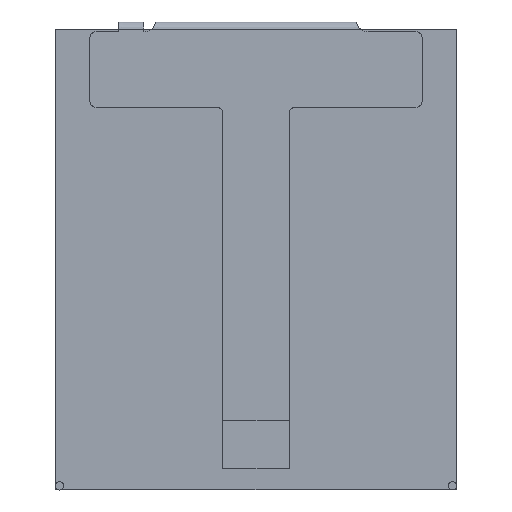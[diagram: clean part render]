
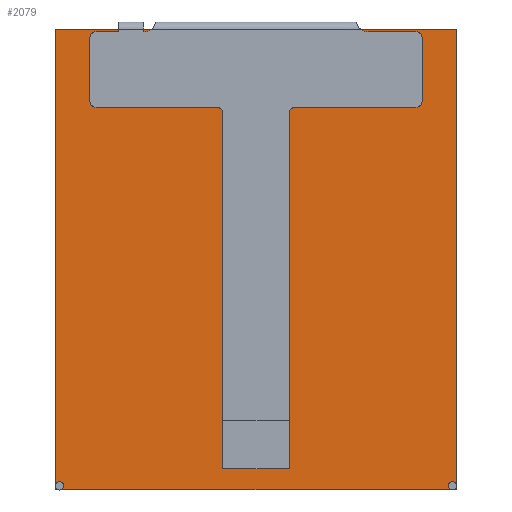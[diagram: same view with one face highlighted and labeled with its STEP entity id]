
A CAD part, front view. The second image highlights one B-rep face of the part: STEP entity #2079.
In plain terms, the highlighted planar face has unit normal (0, -1, 0).
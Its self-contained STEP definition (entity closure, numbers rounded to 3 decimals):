
#33 = CARTESIAN_POINT ( 'NONE',  ( 16.3, -0.01, -18.75 ) ) ;
#166 = CARTESIAN_POINT ( 'NONE',  ( 0., -0.01, 0. ) ) ;
#222 = CARTESIAN_POINT ( 'NONE',  ( -16.3, -0.01, -18.75 ) ) ;
#258 = DIRECTION ( 'NONE',  ( 0., 0., -1. ) ) ;
#302 = EDGE_LOOP ( 'NONE', ( #3413, #6802, #3780, #2350, #6445, #3880, #3641, #1487 ) ) ;
#447 = VECTOR ( 'NONE', #5551, 1000. ) ;
#507 = DIRECTION ( 'NONE',  ( 0., 1., 0. ) ) ;
#549 = EDGE_CURVE ( 'NONE', #3631, #5724, #4770, .T. ) ;
#570 = DIRECTION ( 'NONE',  ( 0., 0., -1. ) ) ;
#597 = VERTEX_POINT ( 'NONE', #2793 ) ;
#815 = DIRECTION ( 'NONE',  ( 1., 0., 0. ) ) ;
#1487 = ORIENTED_EDGE ( 'NONE', *, *, #3222, .T. ) ;
#1657 = VERTEX_POINT ( 'NONE', #2365 ) ;
#1810 = DIRECTION ( 'NONE',  ( 0., -1., 0. ) ) ;
#2053 = CARTESIAN_POINT ( 'NONE',  ( 16.3, -0.01, -18.4 ) ) ;
#2079 = ADVANCED_FACE ( 'NONE', ( #6687 ), #4021, .T. ) ;
#2134 = LINE ( 'NONE', #4086, #3845 ) ;
#2143 = CIRCLE ( 'NONE', #6663, 0.35 ) ;
#2255 = CARTESIAN_POINT ( 'NONE',  ( -16.65, -0.01, 19.1 ) ) ;
#2350 = ORIENTED_EDGE ( 'NONE', *, *, #5614, .T. ) ;
#2365 = CARTESIAN_POINT ( 'NONE',  ( 16.65, -0.01, -18.75 ) ) ;
#2376 = DIRECTION ( 'NONE',  ( 0., 1., 0. ) ) ;
#2560 = EDGE_CURVE ( 'NONE', #597, #4022, #2143, .T. ) ;
#2597 = CARTESIAN_POINT ( 'NONE',  ( 16.65, -0.01, 19.1 ) ) ;
#2793 = CARTESIAN_POINT ( 'NONE',  ( -16.3, -0.01, -18.4 ) ) ;
#2904 = DIRECTION ( 'NONE',  ( 0., 0., -1. ) ) ;
#2941 = VECTOR ( 'NONE', #4908, 1000. ) ;
#3012 = CIRCLE ( 'NONE', #5088, 0.35 ) ;
#3111 = LINE ( 'NONE', #3902, #2941 ) ;
#3127 = CARTESIAN_POINT ( 'NONE',  ( 16.3, -0.01, -19.1 ) ) ;
#3222 = EDGE_CURVE ( 'NONE', #6382, #6458, #3111, .T. ) ;
#3413 = ORIENTED_EDGE ( 'NONE', *, *, #5873, .T. ) ;
#3468 = DIRECTION ( 'NONE',  ( 0., -1., 0. ) ) ;
#3624 = EDGE_CURVE ( 'NONE', #1657, #3631, #3012, .T. ) ;
#3628 = AXIS2_PLACEMENT_3D ( 'NONE', #166, #1810, #258 ) ;
#3631 = VERTEX_POINT ( 'NONE', #2053 ) ;
#3641 = ORIENTED_EDGE ( 'NONE', *, *, #4902, .T. ) ;
#3736 = VECTOR ( 'NONE', #570, 1000. ) ;
#3780 = ORIENTED_EDGE ( 'NONE', *, *, #2560, .T. ) ;
#3845 = VECTOR ( 'NONE', #815, 1000. ) ;
#3880 = ORIENTED_EDGE ( 'NONE', *, *, #3624, .F. ) ;
#3902 = CARTESIAN_POINT ( 'NONE',  ( -16.65, -0.01, 19.1 ) ) ;
#4021 = PLANE ( 'NONE',  #3628 ) ;
#4022 = VERTEX_POINT ( 'NONE', #5138 ) ;
#4030 = LINE ( 'NONE', #6072, #447 ) ;
#4086 = CARTESIAN_POINT ( 'NONE',  ( -16.65, -0.01, -19.1 ) ) ;
#4192 = CARTESIAN_POINT ( 'NONE',  ( -16.65, -0.01, -18.75 ) ) ;
#4224 = EDGE_CURVE ( 'NONE', #4583, #597, #6364, .T. ) ;
#4289 = DIRECTION ( 'NONE',  ( 0., 0., -1. ) ) ;
#4583 = VERTEX_POINT ( 'NONE', #4192 ) ;
#4770 = CIRCLE ( 'NONE', #6681, 0.35 ) ;
#4854 = CARTESIAN_POINT ( 'NONE',  ( -16.3, -0.01, -18.75 ) ) ;
#4902 = EDGE_CURVE ( 'NONE', #1657, #6382, #4030, .T. ) ;
#4908 = DIRECTION ( 'NONE',  ( -1., 0., 0. ) ) ;
#5088 = AXIS2_PLACEMENT_3D ( 'NONE', #5906, #6976, #4289 ) ;
#5138 = CARTESIAN_POINT ( 'NONE',  ( -16.3, -0.01, -19.1 ) ) ;
#5516 = DIRECTION ( 'NONE',  ( 0., 0., -1. ) ) ;
#5551 = DIRECTION ( 'NONE',  ( 0., 0., 1. ) ) ;
#5614 = EDGE_CURVE ( 'NONE', #4022, #5724, #2134, .T. ) ;
#5724 = VERTEX_POINT ( 'NONE', #3127 ) ;
#5873 = EDGE_CURVE ( 'NONE', #6458, #4583, #6236, .T. ) ;
#5906 = CARTESIAN_POINT ( 'NONE',  ( 16.3, -0.01, -18.75 ) ) ;
#5989 = AXIS2_PLACEMENT_3D ( 'NONE', #4854, #507, #6431 ) ;
#6072 = CARTESIAN_POINT ( 'NONE',  ( 16.65, -0.01, 19.1 ) ) ;
#6236 = LINE ( 'NONE', #6509, #3736 ) ;
#6364 = CIRCLE ( 'NONE', #5989, 0.35 ) ;
#6382 = VERTEX_POINT ( 'NONE', #2597 ) ;
#6431 = DIRECTION ( 'NONE',  ( 0., 0., -1. ) ) ;
#6445 = ORIENTED_EDGE ( 'NONE', *, *, #549, .F. ) ;
#6458 = VERTEX_POINT ( 'NONE', #2255 ) ;
#6509 = CARTESIAN_POINT ( 'NONE',  ( -16.65, -0.01, 19.1 ) ) ;
#6663 = AXIS2_PLACEMENT_3D ( 'NONE', #222, #2376, #2904 ) ;
#6681 = AXIS2_PLACEMENT_3D ( 'NONE', #33, #3468, #5516 ) ;
#6687 = FACE_OUTER_BOUND ( 'NONE', #302, .T. ) ;
#6802 = ORIENTED_EDGE ( 'NONE', *, *, #4224, .T. ) ;
#6976 = DIRECTION ( 'NONE',  ( 0., -1., 0. ) ) ;
